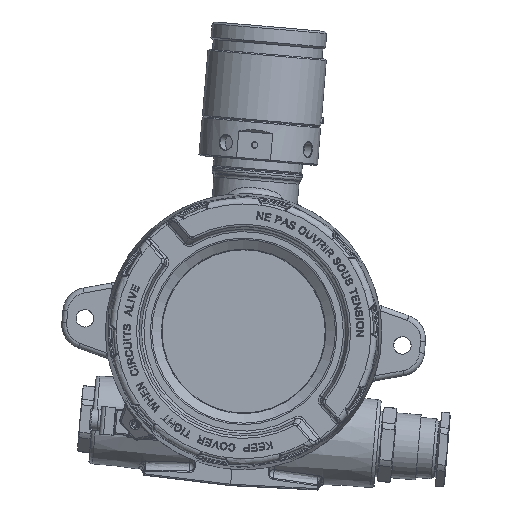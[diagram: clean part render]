
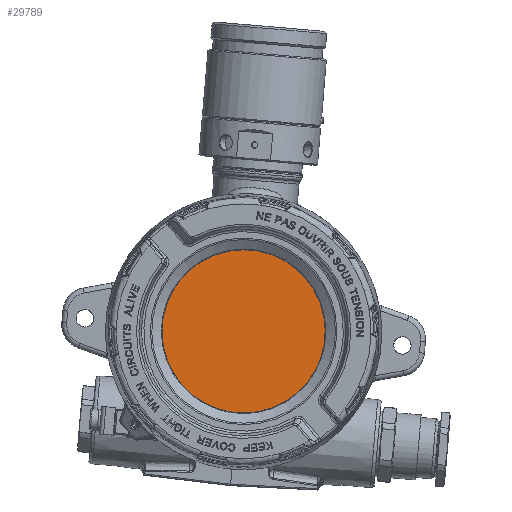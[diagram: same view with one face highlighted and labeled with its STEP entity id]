
A CAD part, top view. The second image highlights one B-rep face of the part: STEP entity #29789.
In plain terms, the highlighted planar face has unit normal (0, 0, 1) as drawn and (1, 0, 0) by its records, which use the part's own axes.
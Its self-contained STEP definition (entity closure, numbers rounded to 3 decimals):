
#2618=PLANE('',#32361);
#3657=FACE_OUTER_BOUND('',#5677,.T.);
#5677=EDGE_LOOP('',(#21954));
#11791=CIRCLE('',#32362,44.5);
#13088=VERTEX_POINT('',#56735);
#16278=EDGE_CURVE('',#13088,#13088,#11791,.F.);
#21954=ORIENTED_EDGE('',*,*,#16278,.T.);
#29789=ADVANCED_FACE('',(#3657),#2618,.F.);
#32361=AXIS2_PLACEMENT_3D('',#56734,#36631,#36632);
#32362=AXIS2_PLACEMENT_3D('',#56736,#36633,#36634);
#36631=DIRECTION('center_axis',(-1.,0.,0.));
#36632=DIRECTION('ref_axis',(0.,-1.,0.));
#36633=DIRECTION('center_axis',(-1.,0.,0.));
#36634=DIRECTION('ref_axis',(0.,-1.,0.));
#56734=CARTESIAN_POINT('Origin',(0.,0.,0.));
#56735=CARTESIAN_POINT('',(0.,0.,-44.5));
#56736=CARTESIAN_POINT('Origin',(0.,0.,0.));
